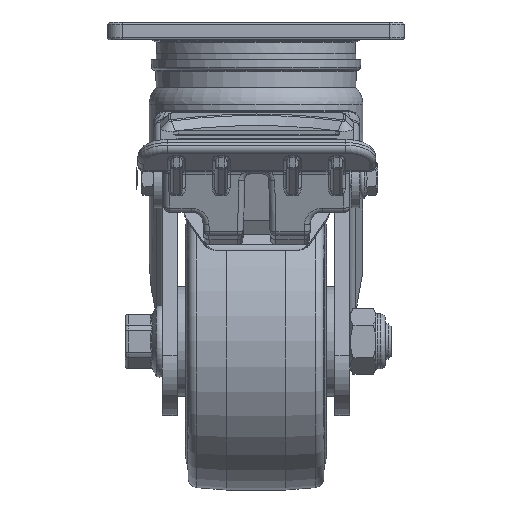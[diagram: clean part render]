
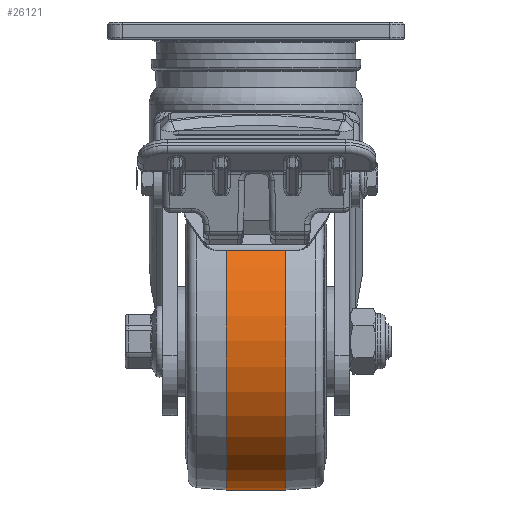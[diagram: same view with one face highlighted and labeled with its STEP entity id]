
A CAD part, left-side view. The second image highlights one B-rep face of the part: STEP entity #26121.
In plain terms, the highlighted cylindrical face has radius 50 mm (diameter 100 mm), a full revolution.
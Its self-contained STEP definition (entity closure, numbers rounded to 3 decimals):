
#948=CYLINDRICAL_SURFACE('',#28271,50.);
#3349=LINE('',#48058,#5202);
#5202=VECTOR('',#34161,50.);
#6729=FACE_OUTER_BOUND('',#8269,.T.);
#8269=EDGE_LOOP('',(#22266,#22267,#22268,#22269));
#9320=CIRCLE('',#28270,50.);
#9321=CIRCLE('',#28272,50.);
#12116=VERTEX_POINT('',#48053);
#12117=VERTEX_POINT('',#48057);
#15614=EDGE_CURVE('',#12116,#12116,#9320,.T.);
#15616=EDGE_CURVE('',#12116,#12117,#3349,.T.);
#15617=EDGE_CURVE('',#12117,#12117,#9321,.T.);
#22266=ORIENTED_EDGE('',*,*,#15614,.F.);
#22267=ORIENTED_EDGE('',*,*,#15616,.T.);
#22268=ORIENTED_EDGE('',*,*,#15617,.T.);
#22269=ORIENTED_EDGE('',*,*,#15616,.F.);
#26121=ADVANCED_FACE('',(#6729),#948,.T.);
#28270=AXIS2_PLACEMENT_3D('',#48054,#34156,#34157);
#28271=AXIS2_PLACEMENT_3D('',#48056,#34159,#34160);
#28272=AXIS2_PLACEMENT_3D('',#48059,#34162,#34163);
#34156=DIRECTION('center_axis',(0.,1.,0.));
#34157=DIRECTION('ref_axis',(0.,0.,
-1.));
#34159=DIRECTION('center_axis',(0.,1.,0.));
#34160=DIRECTION('ref_axis',(-1.,0.,0.));
#34161=DIRECTION('',(0.,-1.,0.));
#34162=DIRECTION('center_axis',(0.,1.,0.));
#34163=DIRECTION('ref_axis',(0.,0.,
-1.));
#48053=CARTESIAN_POINT('',(90.532,25.149,-199.136));
#48054=CARTESIAN_POINT('Origin',(40.532,25.149,-199.136));
#48056=CARTESIAN_POINT('Origin',(40.532,15.149,-199.136));
#48057=CARTESIAN_POINT('',(90.532,5.149,-199.136));
#48058=CARTESIAN_POINT('',(90.532,15.149,-199.136));
#48059=CARTESIAN_POINT('Origin',(40.532,5.149,-199.136));
